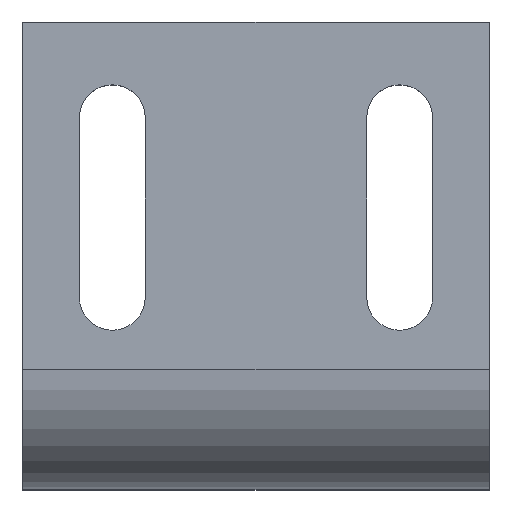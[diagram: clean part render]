
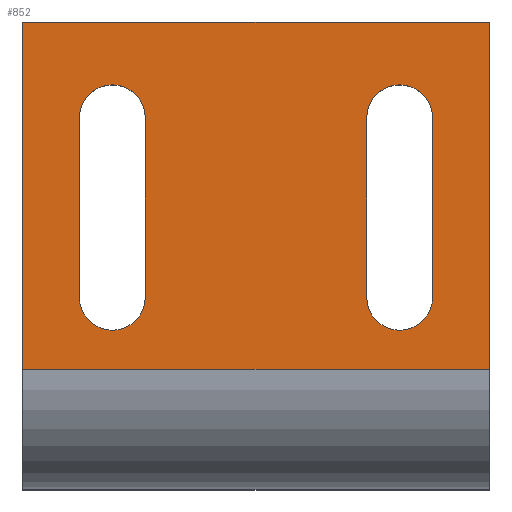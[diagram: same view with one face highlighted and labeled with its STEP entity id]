
A CAD part, top view. The second image highlights one B-rep face of the part: STEP entity #852.
In plain terms, the highlighted planar face has unit normal (0, 0, 1).
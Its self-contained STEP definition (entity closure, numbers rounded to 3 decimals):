
#171=DIRECTION('',(1.,0.,0.));
#172=VECTOR('',#171,39.);
#173=CARTESIAN_POINT('',(-19.5,10.,0.));
#174=LINE('',#173,#172);
#201=DIRECTION('',(0.,1.,0.));
#202=VECTOR('',#201,29.);
#203=CARTESIAN_POINT('',(19.5,10.,0.));
#204=LINE('',#203,#202);
#208=DIRECTION('',(0.,-1.,0.));
#209=VECTOR('',#208,29.);
#210=CARTESIAN_POINT('',(-19.5,39.,0.));
#211=LINE('',#210,#209);
#215=DIRECTION('',(-1.,0.,0.));
#216=VECTOR('',#215,39.);
#217=CARTESIAN_POINT('',(19.5,39.,0.));
#218=LINE('',#217,#216);
#222=DIRECTION('',(0.,-1.,0.));
#223=VECTOR('',#222,15.);
#224=CARTESIAN_POINT('',(-9.25,31.,0.));
#225=LINE('',#224,#223);
#229=CARTESIAN_POINT('',(-12.,31.,0.));
#230=DIRECTION('',(0.,0.,1.));
#231=DIRECTION('',(1.,0.,0.));
#232=AXIS2_PLACEMENT_3D('',#229,#230,#231);
#237=DIRECTION('',(0.,1.,0.));
#238=VECTOR('',#237,15.);
#239=CARTESIAN_POINT('',(-14.75,16.,0.));
#240=LINE('',#239,#238);
#244=CARTESIAN_POINT('',(-12.,16.,0.));
#245=DIRECTION('',(0.,0.,1.));
#246=DIRECTION('',(-1.,0.,0.));
#247=AXIS2_PLACEMENT_3D('',#244,#245,#246);
#252=CARTESIAN_POINT('',(12.,31.,0.));
#253=DIRECTION('',(0.,0.,1.));
#254=DIRECTION('',(1.,0.,0.));
#255=AXIS2_PLACEMENT_3D('',#252,#253,#254);
#260=DIRECTION('',(0.,1.,0.));
#261=VECTOR('',#260,15.);
#262=CARTESIAN_POINT('',(9.25,16.,0.));
#263=LINE('',#262,#261);
#267=CARTESIAN_POINT('',(12.,16.,0.));
#268=DIRECTION('',(0.,0.,1.));
#269=DIRECTION('',(-1.,0.,0.));
#270=AXIS2_PLACEMENT_3D('',#267,#268,#269);
#275=DIRECTION('',(0.,-1.,0.));
#276=VECTOR('',#275,15.);
#277=CARTESIAN_POINT('',(14.75,31.,0.));
#278=LINE('',#277,#276);
#622=CARTESIAN_POINT('',(19.5,10.,0.));
#623=CARTESIAN_POINT('',(19.5,39.,0.));
#624=VERTEX_POINT('',#622);
#625=VERTEX_POINT('',#623);
#626=CARTESIAN_POINT('',(-19.5,39.,0.));
#627=VERTEX_POINT('',#626);
#628=CARTESIAN_POINT('',(-19.5,10.,0.));
#629=VERTEX_POINT('',#628);
#646=CARTESIAN_POINT('',(-9.25,31.,0.));
#647=CARTESIAN_POINT('',(-9.25,16.,0.));
#648=VERTEX_POINT('',#646);
#649=VERTEX_POINT('',#647);
#650=CARTESIAN_POINT('',(-14.75,16.,0.));
#651=VERTEX_POINT('',#650);
#652=CARTESIAN_POINT('',(-14.75,31.,0.));
#653=VERTEX_POINT('',#652);
#654=CARTESIAN_POINT('',(14.75,31.,0.));
#655=CARTESIAN_POINT('',(9.25,31.,0.));
#656=VERTEX_POINT('',#654);
#657=VERTEX_POINT('',#655);
#658=CARTESIAN_POINT('',(14.75,16.,0.));
#659=VERTEX_POINT('',#658);
#660=CARTESIAN_POINT('',(9.25,16.,0.));
#661=VERTEX_POINT('',#660);
#818=CARTESIAN_POINT('',(19.5,0.,0.));
#819=DIRECTION('',(0.,0.,1.));
#820=DIRECTION('',(1.,0.,0.));
#821=AXIS2_PLACEMENT_3D('',#818,#819,#820);
#822=PLANE('',#821);
#824=ORIENTED_EDGE('',*,*,#823,.F.);
#825=ORIENTED_EDGE('',*,*,#809,.F.);
#827=ORIENTED_EDGE('',*,*,#826,.F.);
#829=ORIENTED_EDGE('',*,*,#828,.F.);
#830=EDGE_LOOP('',(#824,#825,#827,#829));
#831=FACE_OUTER_BOUND('',#830,.F.);
#833=ORIENTED_EDGE('',*,*,#832,.F.);
#835=ORIENTED_EDGE('',*,*,#834,.T.);
#837=ORIENTED_EDGE('',*,*,#836,.F.);
#839=ORIENTED_EDGE('',*,*,#838,.T.);
#840=EDGE_LOOP('',(#833,#835,#837,#839));
#841=FACE_BOUND('',#840,.F.);
#843=ORIENTED_EDGE('',*,*,#842,.T.);
#845=ORIENTED_EDGE('',*,*,#844,.F.);
#847=ORIENTED_EDGE('',*,*,#846,.T.);
#849=ORIENTED_EDGE('',*,*,#848,.F.);
#850=EDGE_LOOP('',(#843,#845,#847,#849));
#851=FACE_BOUND('',#850,.F.);
#233=CIRCLE('',#232,2.75);
#248=CIRCLE('',#247,2.75);
#256=CIRCLE('',#255,2.75);
#271=CIRCLE('',#270,2.75);
#809=EDGE_CURVE('',#629,#624,#174,.T.);
#823=EDGE_CURVE('',#624,#625,#204,.T.);
#826=EDGE_CURVE('',#627,#629,#211,.T.);
#828=EDGE_CURVE('',#625,#627,#218,.T.);
#832=EDGE_CURVE('',#648,#649,#225,.T.);
#834=EDGE_CURVE('',#648,#653,#233,.T.);
#836=EDGE_CURVE('',#651,#653,#240,.T.);
#838=EDGE_CURVE('',#651,#649,#248,.T.);
#842=EDGE_CURVE('',#656,#657,#256,.T.);
#844=EDGE_CURVE('',#661,#657,#263,.T.);
#846=EDGE_CURVE('',#661,#659,#271,.T.);
#848=EDGE_CURVE('',#656,#659,#278,.T.);
#852=ADVANCED_FACE('',(#831,#841,#851),#822,.T.);
